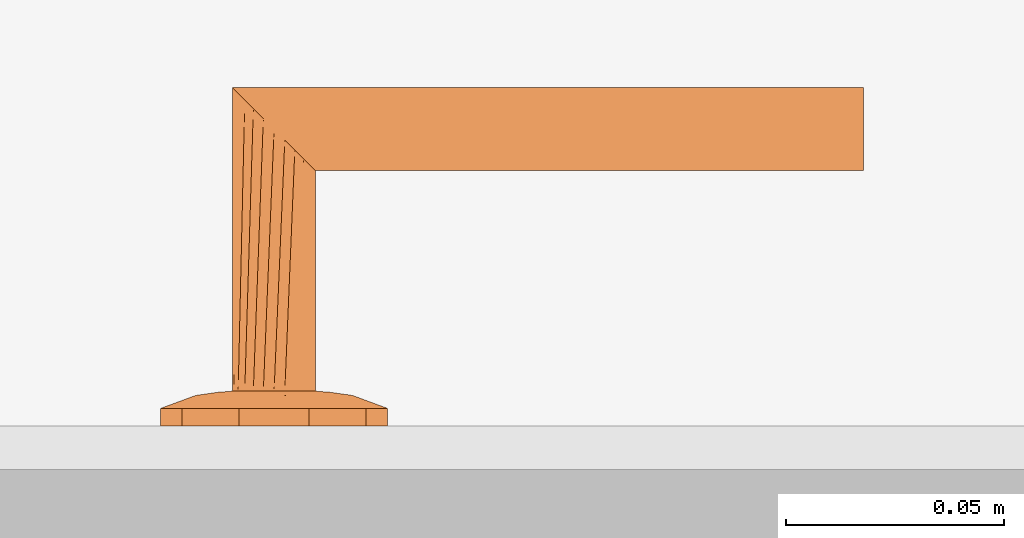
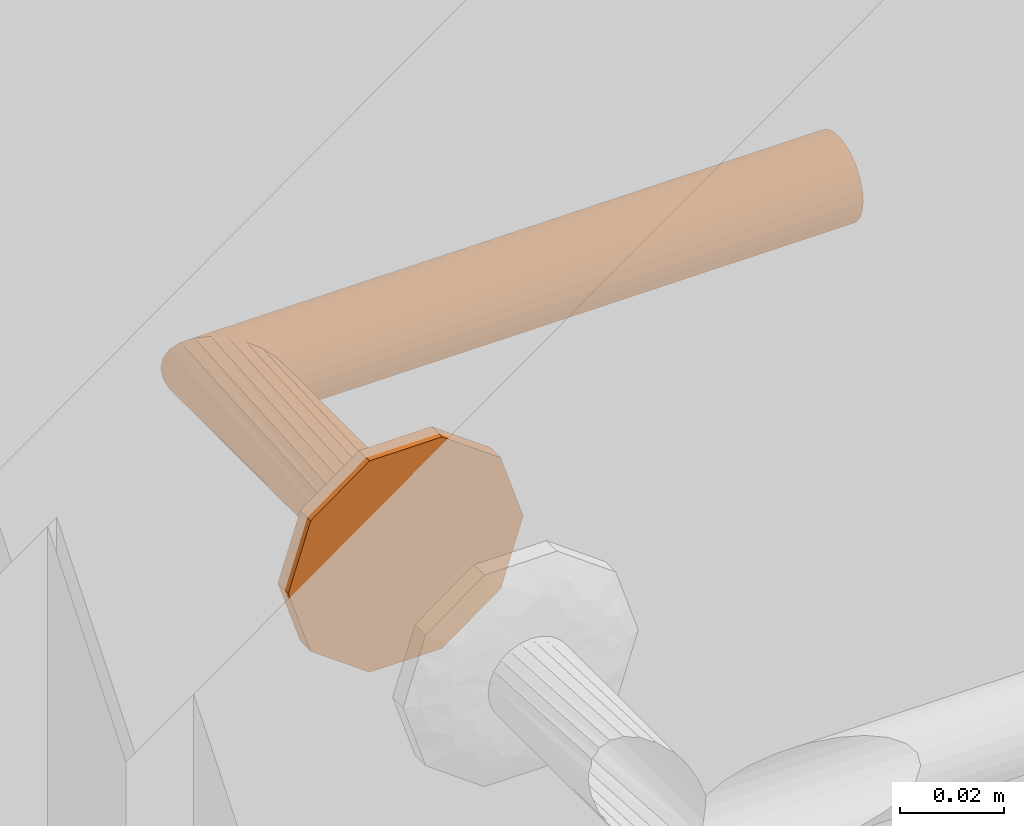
# One storey, part 40 of 55: 1 proxy.
"""IFC2X3 building model written with IfcOpenShell, lengths in millimetres."""

import ifcopenshell
import ifcopenshell.guid

model = None  # the IFC model being written
_history = None  # IfcOwnerHistory: only IFC2X3 demands one
_inside = {}  # id of a spatial element -> (the spatial element, [elements in it])
_under = {}  # id of a project, library or spatial element -> (it, [spatial elements below it])
_declared = {}  # id of a project -> (the project, [libraries it declares])
_typed = {}  # id of a type object -> (the type object, [elements of that type])
_made_of = {}  # id of a material, layer set ... -> (it, [elements and type objects made of it])


def new_model(schema):
    """Start an empty IFC model of exactly this schema.

    Asked for "IFC4X3", IfcOpenShell would pick the latest addendum, in which some entities
    have other attributes; the version numbers below select the first issue.
    IFC2X3 requires an IfcOwnerHistory on every rooted entity: one is made here for all.
    """
    global model, _history
    if schema == "IFC4X3":
        model = ifcopenshell.file(schema_version=(4, 3, 0, 0))
    else:
        model = ifcopenshell.file(schema=schema)
    _inside.clear()
    _under.clear()
    _declared.clear()
    _typed.clear()
    _made_of.clear()
    _history = None
    if model.schema == "IFC2X3":
        org = make("IfcOrganization", Name="unknown")
        user = make(
            "IfcPersonAndOrganization",
            ThePerson=make("IfcPerson", FamilyName="unknown"),
            TheOrganization=org,
        )
        app = make(
            "IfcApplication",
            ApplicationDeveloper=org,
            Version="unknown",
            ApplicationFullName="unknown",
            ApplicationIdentifier="unknown",
        )
        _history = make(
            "IfcOwnerHistory",
            OwningUser=user,
            OwningApplication=app,
            ChangeAction="ADDED",
            CreationDate=0,
        )
    return model


def make(cls, **values):
    """One entity of the class cls with the attributes given. An attribute that is None is left unset."""
    return model.create_entity(
        cls, **{name: value for name, value in values.items() if value is not None}
    )


def entity(cls, *values):
    """Any entity or typed value of the class cls, its attributes in the order of the schema. None: left unset."""
    e = model.create_entity(cls)
    for i, value in enumerate(values):
        if value is not None:
            e[i] = value
    return e


def rooted(cls, **values):
    """An entity with a GlobalId (a new one), such as an element, a storey or a relation."""
    return make(cls, GlobalId=ifcopenshell.guid.new(), OwnerHistory=_history, **values)


def si_unit(unit_type, name, prefix=None):
    """IfcSIUnit, for example si_unit("LENGTHUNIT", "METRE", prefix="MILLI")."""
    return make("IfcSIUnit", UnitType=unit_type, Prefix=prefix, Name=name)


def converted_unit(unit_type, name, factor, base, dimensions=None, offset=None):
    """IfcConversionBasedUnit, such as the inch: factor (a typed value) times the base unit."""
    return make(
        "IfcConversionBasedUnit"
        if offset is None
        else "IfcConversionBasedUnitWithOffset",
        ConversionOffset=offset,
        Dimensions=None
        if dimensions is None
        else entity("IfcDimensionalExponents", *dimensions),
        UnitType=unit_type,
        Name=name,
        ConversionFactor=make(
            "IfcMeasureWithUnit", ValueComponent=factor, UnitComponent=base
        ),
    )


def assignment(units):
    """IfcUnitAssignment: the units of a project."""
    return None if units is None else make("IfcUnitAssignment", Units=units)


def point(xyz):
    """IfcCartesianPoint."""
    return None if xyz is None else make("IfcCartesianPoint", Coordinates=xyz)


def direction(xyz):
    """IfcDirection."""
    return None if xyz is None else make("IfcDirection", DirectionRatios=xyz)


def frame(location, z_axis=None, x_axis=None):
    """IfcAxis2Placement3D, a coordinate frame: its origin and axes. An axis left out is left unset."""
    return make(
        "IfcAxis2Placement3D",
        Location=point(location),
        Axis=direction(z_axis),
        RefDirection=direction(x_axis),
    )


def origin():
    """The frame at (0, 0, 0) with its axes left unset."""
    return frame((0.0, 0.0, 0.0))


def place(relative_to, where):
    """IfcLocalPlacement: puts the frame where relative to a parent placement (None: the world)."""
    return make(
        "IfcLocalPlacement", PlacementRelTo=relative_to, RelativePlacement=where
    )


def context(
    kind, dimensions, precision=None, world=None, true_north=None, identifier=None
):
    """IfcGeometricRepresentationContext, for example the 3D "Model" context."""
    return make(
        "IfcGeometricRepresentationContext",
        ContextIdentifier=identifier,
        ContextType=kind,
        CoordinateSpaceDimension=dimensions,
        Precision=precision,
        WorldCoordinateSystem=world,
        TrueNorth=true_north,
    )


def subcontext(parent, identifier, kind, view, scale=None):
    """IfcGeometricRepresentationSubContext, for example "Body" below "Model"."""
    return make(
        "IfcGeometricRepresentationSubContext",
        ContextIdentifier=identifier,
        ContextType=kind,
        ParentContext=parent,
        TargetScale=scale,
        TargetView=view,
    )


def project(units=None, contexts=None):
    """IfcProject with its units and contexts."""
    return rooted(
        "IfcProject",
        Name="project",
        RepresentationContexts=contexts,
        UnitsInContext=assignment(units),
    )


def spatial(cls, under=None, at=None, **own):
    """A site, building, storey or space (cls), placed at a placement, below another one or the project."""
    s = rooted(cls, ObjectPlacement=at, **own)
    if under is not None:
        _under.setdefault(under.id(), (under, []))[1].append(s)
    return s


def faces_of(points, faces, orient=None, outer=None):
    """IfcFace entities. A face is a list of loops; a loop is a list of indices into points, from 0.

    orient and outer hold one flag for each loop. By default every Orientation is true, the
    first loop of a face is its IfcFaceOuterBound and the others are IfcFaceBound.
    """
    made = []
    for i, loops in enumerate(faces):
        bounds = []
        for j, loop in enumerate(loops):
            is_outer = j == 0 if outer is None else outer[i][j]
            bounds.append(
                make(
                    "IfcFaceOuterBound" if is_outer else "IfcFaceBound",
                    Bound=make("IfcPolyLoop", Polygon=[points[k] for k in loop]),
                    Orientation=True if orient is None else orient[i][j],
                )
            )
        made.append(make("IfcFace", Bounds=bounds))
    return made


def faceted_brep(points, faces, orient=None, outer=None, voids=None):
    """IfcFacetedBrep: a solid bounded by flat faces; with voids (closed shells), ...WithVoids."""
    shared = [point(p) for p in points]
    hull = make("IfcClosedShell", CfsFaces=faces_of(shared, faces, orient, outer))
    if voids is None:
        return make("IfcFacetedBrep", Outer=hull)
    return make(
        "IfcFacetedBrepWithVoids",
        Outer=hull,
        Voids=[
            make(cls, CfsFaces=faces_of(shared, fs, o, b)) for cls, fs, o, b in voids
        ],
    )


def shape(context_of_items, identifier, shape_type, items):
    """IfcShapeRepresentation: the items that make up one representation, for example the "Body"."""
    return make(
        "IfcShapeRepresentation",
        ContextOfItems=context_of_items,
        RepresentationIdentifier=identifier,
        RepresentationType=shape_type,
        Items=items,
    )


def source(mapping_origin, context_of_items, identifier, shape_type, items):
    """IfcRepresentationMap: a shape defined once, which mapped items show again and again."""
    return make(
        "IfcRepresentationMap",
        MappingOrigin=mapping_origin,
        MappedRepresentation=shape(context_of_items, identifier, shape_type, items),
    )


def transform(
    local_origin,
    x_axis=None,
    y_axis=None,
    z_axis=None,
    scale=None,
    scale2=None,
    scale3=None,
    uniform=True,
):
    """IfcCartesianTransformationOperator3D, or its non-uniform kind. x_axis, y_axis, z_axis: its Axis1, 2, 3."""
    if uniform:
        return make(
            "IfcCartesianTransformationOperator3D",
            Axis1=direction(x_axis),
            Axis2=direction(y_axis),
            LocalOrigin=point(local_origin),
            Scale=scale,
            Axis3=direction(z_axis),
        )
    return make(
        "IfcCartesianTransformationOperator3DnonUniform",
        Axis1=direction(x_axis),
        Axis2=direction(y_axis),
        LocalOrigin=point(local_origin),
        Scale=scale,
        Axis3=direction(z_axis),
        Scale2=scale2,
        Scale3=scale3,
    )


def mapped(mapping_source, mapping_target):
    """IfcMappedItem: shows the shape of a source again, moved by a transform."""
    return make(
        "IfcMappedItem", MappingSource=mapping_source, MappingTarget=mapping_target
    )


def material(Name=None, Category=None):
    """IfcMaterial."""
    return make("IfcMaterial", Name=Name, Category=Category)


def made_of(thing, what):
    """Note that an element or type object is made of a material, layer set ...; save() writes the relation."""
    if what is not None:
        _made_of.setdefault(what.id(), (what, []))[1].append(thing)
    return thing


def type_object(cls, material=None, **own):
    """A type object (cls), such as IfcWallType, which elements share."""
    return made_of(rooted(cls, **own), material)


def type_shapes(of_type, sources):
    """Give a type object the sources (RepresentationMaps) that its elements show as mapped items."""
    of_type.RepresentationMaps = sources


def element(
    cls,
    number,
    at=None,
    inside=None,
    cuts=None,
    type_object=None,
    material=None,
    context=None,
    identifier="Body",
    shape_type=None,
    held_by="IfcProductDefinitionShape",
    body=None,
    shapes=None,
    **own,
):
    """One element of the class cls, such as IfcWall. Its Tag is "e" and its number.

    at: its placement. inside: the storey or other place that contains it. cuts: it is an
    opening in that element (IfcRelVoidsElement). A single representation is given by context,
    identifier, shape_type and body (its items); several are given by shapes. held_by: the class
    of the entity that holds the representations. save() writes the other relations.
    """
    e = rooted(cls, Tag="e%d" % number, ObjectPlacement=at, **own)
    if body is not None:
        shapes = [shape(context, identifier, shape_type, body)]
    if shapes is not None:
        e.Representation = make(held_by, Representations=shapes)
    if inside is not None:
        _inside.setdefault(inside.id(), (inside, []))[1].append(e)
    if cuts is not None:
        rooted(
            "IfcRelVoidsElement", RelatingBuildingElement=cuts, RelatedOpeningElement=e
        )
    if type_object is not None:
        _typed.setdefault(type_object.id(), (type_object, []))[1].append(e)
    return made_of(e, material)


def aggregate(whole, parts):
    """IfcRelAggregates: a whole, such as a stair, and the parts it consists of."""
    return rooted("IfcRelAggregates", RelatingObject=whole, RelatedObjects=parts)


def save(model, path):
    """Write the relations noted so far, then the file.

    IfcRelAggregates (storeys below a building ...), IfcRelContainedInSpatialStructure (elements
    in a storey), IfcRelDefinesByType, IfcRelAssociatesMaterial and IfcRelDeclares: one each for
    every whole, place, type object, material and project.
    """
    for whole, parts in _under.values():
        aggregate(whole, parts)
    for where, things in _inside.values():
        rooted(
            "IfcRelContainedInSpatialStructure",
            RelatedElements=things,
            RelatingStructure=where,
        )
    for kind, things in _typed.values():
        rooted("IfcRelDefinesByType", RelatedObjects=things, RelatingType=kind)
    for what, things in _made_of.values():
        rooted("IfcRelAssociatesMaterial", RelatedObjects=things, RelatingMaterial=what)
    for by, libraries in _declared.values():
        rooted("IfcRelDeclares", RelatingContext=by, RelatedDefinitions=libraries)
    model.write(path)


model = new_model("IFC2X3")

# Units and contexts
model_context = context("Model", 3, precision=0.01, world=origin(), true_north=direction((6.123233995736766e-17, 1.0)))
plan_context = context("Plan", 3, precision=0.01, world=origin(), true_north=direction((6.123233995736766e-17, 1.0)))
body_context = subcontext(model_context, "Body", "Model", "MODEL_VIEW")
ifc_project = project(units=[si_unit("LENGTHUNIT", "METRE", prefix="MILLI"), converted_unit("PLANEANGLEUNIT", "DEGREE", entity("IfcPlaneAngleMeasure", 0.017453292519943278), si_unit("PLANEANGLEUNIT", "RADIAN"), dimensions=[0, 0, 0, 0, 0, 0, 0]), si_unit("AREAUNIT", "SQUARE_METRE")], contexts=[model_context, plan_context])

# Site, building, storey, space
site_placement = place(None, origin())
site = spatial("IfcSite", under=ifc_project, at=site_placement, Name="Default", CompositionType="ELEMENT")
building_placement = place(site_placement, origin())
building = spatial("IfcBuilding", under=site, at=building_placement, CompositionType="ELEMENT")
storey_placement = place(building_placement, origin())
storey = spatial("IfcBuildingStorey", under=building, at=storey_placement, Name="1K", CompositionType="ELEMENT", Elevation=0.0)
space_placement = place(storey_placement, origin())
space = spatial("IfcSpace", under=storey, at=space_placement, Name="1-0.5", CompositionType="ELEMENT", InteriorOrExteriorSpace="INTERNAL")

# Proxy
ifc_material = material(Name="<Unnamed>")
building_element_proxy_type = type_object("IfcBuildingElementProxyType", Name="Door-handle_Lever_ABLOY_INOXI_3-19ss-002_RT:Default", PredefinedType="NOTDEFINED", material=ifc_material)
shared_shape = source(origin(), body_context, "Body", "Brep", [
    faceted_brep([(0.0, 0.0, 0.0), (21.034441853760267, -15.282416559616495, 0.0), (14.534441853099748, -20.00494299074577, 0.0), (8.034441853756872, -24.72746942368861, 0.0), (0.0, -24.72746942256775, 0.0), (23.51722092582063, -7.6412082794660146, 0.0), (26.0, 0.0, 0.0), (-8.034441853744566, -24.727469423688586, 0.0), (-14.534441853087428, -20.00494299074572, 0.0), (-21.03444185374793, -15.282416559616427, 0.0), (-23.517220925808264, -7.641208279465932, 0.0), (-26.0, 0.0, 0.0), (-23.517220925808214, 7.641208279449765, 0.0), (23.517220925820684, 7.641208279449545, 0.0), (21.034441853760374, 15.282416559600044, 0.0), (14.53444185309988, 20.00494299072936, 0.0), (8.034441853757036, 24.72746942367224, 0.0), (-21.034441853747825, 15.282416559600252, 0.0), (-14.53444185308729, 20.004942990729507, 0.0), (-8.0344418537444, 24.72746942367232, 0.0), (0.0, 24.72746942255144, 0.0), (0.0, 0.0, 8.0), (4.7500000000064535, -8.227241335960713, 8.0), (5.937500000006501, -6.170431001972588, 8.0), (7.125000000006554, -4.113620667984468, 8.0), (8.312500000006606, -2.0568103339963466, 8.0), (9.500000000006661, 0.0, 8.0), (8.312500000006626, 2.056810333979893, 8.0), (2.3750000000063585, -8.227241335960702, 8.0), (0.0, -8.227241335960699, 8.0), (-2.3749999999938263, -8.227241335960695, 8.0), (-4.749999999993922, -8.227241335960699, 8.0), (-5.937499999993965, -6.170431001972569, 8.0), (-7.124999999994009, -4.113620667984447, 8.0), (-8.312499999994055, -2.056810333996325, 8.0), (-9.499999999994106, 0.0, 8.0), (7.125000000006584, 4.113620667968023, 8.0), (5.937500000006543, 6.170431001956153, 8.0), (4.750000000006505, 8.227241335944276, 8.0), (2.3750000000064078, 8.22724133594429, 8.0), (-8.31249999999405, 2.0568103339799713, 8.0), (-7.12499999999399, 4.113620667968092, 8.0), (-5.9374999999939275, 6.170431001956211, 8.0), (-4.74999999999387, 8.227241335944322, 8.0), (0.0, 8.227241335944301, 8.0), (-2.374999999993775, 8.227241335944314, 8.0), (-22.488765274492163, -10.806469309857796, 4.030771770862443), (-16.663919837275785, -7.932665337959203, 6.877259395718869), (-20.643071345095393, -6.292822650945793, 5.929480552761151), (-12.50457926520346, -5.179566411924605, 7.774932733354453), (-16.764060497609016, -3.820257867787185, 7.1747985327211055), (-9.071726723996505, -10.311606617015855, 7.7520782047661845), (-11.963426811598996, -8.625290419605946, 7.618343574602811), (-11.979136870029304, -13.678312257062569, 6.945778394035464), (5.7585542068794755, -20.96753300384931, 5.871476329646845), (0.0, -24.72746942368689, 4.030771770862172), (8.03444185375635, -24.727469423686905, 4.030771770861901), (16.66391982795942, -7.932665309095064, 6.877259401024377), (22.488765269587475, -10.806469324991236, 4.03077177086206), (20.64307133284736, -6.29282258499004, 5.929480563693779), (14.534441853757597, -20.004942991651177, 4.030771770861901), (9.499431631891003, -18.64368355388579, 6.154325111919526), (-15.783149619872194, -11.991003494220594, 6.50080018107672), (-21.034441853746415, -15.282416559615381, 4.030771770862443), (-14.53444185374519, -20.00494299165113, 4.030771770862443), (-23.012042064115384, 0.0, 5.135401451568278), (-23.943088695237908, -6.330522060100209, 4.030771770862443), (11.96342678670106, -8.62529049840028, 7.618343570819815), (12.504579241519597, -5.179566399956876, 7.774932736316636), (16.764060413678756, -3.8202578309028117, 7.17479855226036), (15.783149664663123, -11.991003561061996, 6.50080015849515), (17.985351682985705, 0.0, 6.993737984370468), (23.012042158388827, 0.0, 5.135401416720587), (8.661516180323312, -10.478936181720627, 7.768126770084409), (-8.03444185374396, -24.727469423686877, 4.030771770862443), (-3.3573143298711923, -21.197247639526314, 5.971427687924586), (-9.941915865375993, -17.061976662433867, 6.522757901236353), (-5.973257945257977, -16.430139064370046, 7.110979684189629), (-7.711266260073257, -12.760344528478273, 7.594456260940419), (11.979136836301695, -13.678312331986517, 6.945778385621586), (7.511307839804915, -13.358932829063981, 7.529187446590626), (5.953298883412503, -16.50608604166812, 7.096344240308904), (-1.5654593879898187, -15.307443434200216, 7.519134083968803), (-7.784980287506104, -20.476295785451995, 5.812837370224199), (2.8135289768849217, -17.76392260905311, 6.993737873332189), (-17.98535168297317, 0.0, 6.993737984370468), (-26.0, 0.0, 4.030771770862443), (-23.51722092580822, -7.641208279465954, 4.030771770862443), (23.943088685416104, -6.33052209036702, 4.030771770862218), (24.308823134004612, -5.204907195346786, 4.030771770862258), (26.0, 0.0, 4.030771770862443), (21.03444185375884, -15.282416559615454, 4.030771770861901), (22.617646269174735, -10.40981439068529, 4.030771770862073), (22.488765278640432, 10.806469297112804, 4.030771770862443), (16.66391984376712, 7.932665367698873, 6.877259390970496), (20.643071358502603, 6.292822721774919, 5.929480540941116), (12.504579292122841, 5.179566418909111, 7.774932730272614), (16.764060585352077, 3.8202579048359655, 7.174798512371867), (9.07172672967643, 10.31160659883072, 7.752078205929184), (11.963426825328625, 8.62529034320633, 7.618343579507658), (11.979136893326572, 13.67831220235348, 6.9457784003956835), (-5.758554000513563, 20.96753314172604, 5.8714763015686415), (0.0, 24.72746942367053, 4.030771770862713), (-8.03444185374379, 24.72746942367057, 4.030771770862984), (-16.663919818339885, 7.932665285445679, 6.877259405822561), (-22.48876526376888, 10.806469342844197, 4.030771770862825), (-20.643071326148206, 6.2928225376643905, 5.929480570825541), (-14.534441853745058, 20.004942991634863, 4.030771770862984), (-9.499431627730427, 18.643683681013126, 6.154325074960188), (15.783149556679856, 11.991003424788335, 6.5008002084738), (21.03444185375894, 15.282416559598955, 4.030771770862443), (14.534441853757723, 20.004942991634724, 4.030771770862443), (23.943088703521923, 6.330522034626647, 4.030771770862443), (-11.96342675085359, 8.625290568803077, 7.618343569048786), (-12.504579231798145, 5.179566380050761, 7.77493273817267), (-16.764060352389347, 3.820257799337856, 7.174798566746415), (-15.78314967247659, 11.991003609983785, 6.500800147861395), (-8.661516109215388, 10.478936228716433, 7.768126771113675), (8.034441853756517, 24.727469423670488, 4.030771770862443), (3.3573144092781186, 21.197247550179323, 5.971427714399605), (9.941915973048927, 17.061976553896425, 6.522757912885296), (5.9732581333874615, 16.430139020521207, 7.110979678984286), (7.711266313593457, 12.760344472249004, 7.5944562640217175), (-11.979136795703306, 13.678312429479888, 6.945778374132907), (-7.511307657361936, 13.358932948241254, 7.5291874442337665), (-5.9532988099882, 16.50608628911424, 7.096344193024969), (1.5654596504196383, 15.3074431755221, 7.519134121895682), (7.784980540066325, 20.476295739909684, 5.812837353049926), (-2.81352881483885, 17.76392263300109, 6.993737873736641), (23.51722092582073, 7.6412082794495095, 4.030771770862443), (-23.94308867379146, 6.330522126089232, 4.030771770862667), (-24.308823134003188, 5.20490719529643, 4.030771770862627), (-21.034441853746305, 15.282416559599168, 4.030771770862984), (-22.617646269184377, 10.409814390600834, 4.0307717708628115)], [[[0, 1, 2]], [[0, 2, 3]], [[0, 3, 4]], [[0, 5, 1]], [[0, 6, 5]], [[0, 4, 7]], [[0, 7, 8]], [[0, 8, 9]], [[0, 9, 10]], [[0, 10, 11]], [[0, 11, 12]], [[0, 13, 6]], [[0, 14, 13]], [[0, 15, 14]], [[0, 16, 15]], [[0, 12, 17]], [[0, 17, 18]], [[0, 18, 19]], [[0, 19, 20]], [[0, 20, 16]], [[21, 22, 23]], [[21, 23, 24]], [[21, 24, 25]], [[21, 25, 26]], [[21, 26, 27]], [[21, 28, 22]], [[21, 29, 28]], [[21, 30, 29]], [[21, 31, 30]], [[21, 32, 31]], [[21, 33, 32]], [[21, 34, 33]], [[21, 35, 34]], [[21, 27, 36]], [[21, 36, 37]], [[21, 37, 38]], [[21, 38, 39]], [[21, 40, 35]], [[21, 41, 40]], [[21, 42, 41]], [[21, 43, 42]], [[21, 39, 44]], [[21, 44, 45]], [[21, 45, 43]], [[46, 47, 48]], [[47, 49, 50]], [[49, 33, 34]], [[51, 52, 53]], [[49, 52, 33]], [[48, 47, 50]], [[54, 55, 56]], [[57, 58, 59]], [[56, 60, 61]], [[62, 63, 64]], [[65, 66, 48]], [[67, 57, 68]], [[68, 69, 25]], [[57, 67, 70]], [[69, 26, 25]], [[62, 53, 52]], [[71, 69, 72]], [[67, 23, 73]], [[74, 55, 75]], [[76, 77, 78]], [[79, 60, 70]], [[69, 59, 72]], [[80, 81, 61]], [[77, 30, 78]], [[82, 30, 77]], [[28, 80, 22]], [[77, 83, 75]], [[75, 82, 77]], [[55, 84, 75]], [[85, 50, 35]], [[24, 68, 25]], [[82, 84, 29]], [[84, 82, 75]], [[31, 78, 30]], [[82, 29, 30]], [[34, 35, 50]], [[52, 49, 47]], [[62, 52, 47]], [[34, 50, 49]], [[53, 78, 51]], [[32, 33, 52]], [[85, 65, 50]], [[66, 65, 86]], [[67, 68, 24]], [[77, 76, 83]], [[65, 48, 50]], [[63, 62, 46]], [[48, 66, 87, 46]], [[62, 47, 46]], [[69, 68, 57]], [[80, 73, 22]], [[70, 67, 79]], [[67, 24, 23]], [[72, 88, 89, 90]], [[69, 71, 26]], [[59, 69, 57]], [[61, 60, 79]], [[62, 64, 53]], [[91, 58, 70]], [[72, 59, 88]], [[57, 70, 58]], [[59, 58, 92]], [[80, 61, 79]], [[91, 70, 60]], [[61, 81, 54]], [[73, 80, 79]], [[28, 84, 81]], [[67, 73, 79]], [[29, 84, 28]], [[22, 73, 23]], [[51, 31, 32]], [[76, 78, 53]], [[53, 64, 76]], [[83, 64, 74]], [[64, 83, 76]], [[75, 83, 74]], [[31, 51, 78]], [[52, 51, 32]], [[28, 81, 80]], [[54, 81, 84]], [[55, 54, 84]], [[61, 54, 56]], [[93, 94, 95]], [[94, 96, 97]], [[96, 36, 27]], [[98, 99, 100]], [[96, 99, 36]], [[95, 94, 97]], [[101, 102, 103]], [[104, 105, 106]], [[103, 107, 108]], [[109, 110, 111]], [[72, 112, 95]], [[113, 104, 114]], [[114, 115, 40]], [[104, 113, 116]], [[115, 35, 40]], [[109, 100, 99]], [[85, 115, 65]], [[113, 42, 117]], [[118, 102, 119]], [[120, 121, 122]], [[123, 107, 116]], [[115, 106, 65]], [[124, 125, 108]], [[121, 39, 122]], [[126, 39, 121]], [[45, 124, 43]], [[121, 127, 119]], [[119, 126, 121]], [[102, 128, 119]], [[71, 97, 26]], [[41, 114, 40]], [[126, 128, 44]], [[128, 126, 119]], [[38, 122, 39]], [[126, 44, 39]], [[27, 26, 97]], [[99, 96, 94]], [[109, 99, 94]], [[27, 97, 96]], [[100, 122, 98]], [[37, 36, 99]], [[71, 72, 97]], [[112, 72, 90]], [[113, 114, 41]], [[121, 120, 127]], [[72, 95, 97]], [[110, 109, 93]], [[95, 112, 129, 93]], [[109, 94, 93]], [[115, 114, 104]], [[124, 117, 43]], [[116, 113, 123]], [[113, 41, 42]], [[65, 130, 131, 86]], [[115, 85, 35]], [[106, 115, 104]], [[108, 107, 123]], [[109, 111, 100]], [[132, 105, 116]], [[65, 106, 130]], [[104, 116, 105]], [[106, 105, 133]], [[124, 108, 123]], [[132, 116, 107]], [[108, 125, 101]], [[117, 124, 123]], [[45, 128, 125]], [[113, 117, 123]], [[44, 128, 45]], [[43, 117, 42]], [[98, 38, 37]], [[120, 122, 100]], [[100, 111, 120]], [[127, 111, 118]], [[111, 127, 120]], [[119, 127, 118]], [[38, 98, 122]], [[99, 98, 37]], [[45, 125, 124]], [[101, 125, 128]], [[102, 101, 128]], [[108, 101, 103]], [[7, 74, 64, 63, 9, 8]], [[10, 9, 63, 46, 87, 66, 86, 11]], [[6, 90, 89, 88, 92, 1, 5]], [[1, 58, 91]], [[74, 7, 4, 3, 56, 55]], [[60, 56, 3, 2, 1, 91]], [[1, 92, 58]], [[14, 110, 93, 129, 112, 90, 6, 13]], [[111, 110, 14, 15, 16, 118]], [[11, 86, 131, 130, 133, 17, 12]], [[17, 105, 132]], [[118, 16, 20, 19, 103, 102]], [[107, 103, 19, 18, 17, 132]], [[17, 133, 105]], [[59, 92, 88]], [[106, 133, 130]]]),
    faceted_brep([(4.7499999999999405, -8.22724133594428, 8.0), (2.4587809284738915, -9.176295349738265, 8.0), (0.0, -9.499999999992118, 8.0), (-2.4587809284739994, -9.176295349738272, 8.0), (-4.7500000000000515, -8.227241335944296, 8.0), (-6.717514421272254, -6.717514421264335, 8.0), (-8.227241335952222, -4.74999999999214, 8.0), (-9.176295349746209, -2.4587809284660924, 8.0), (-9.500000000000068, 0.0, 8.0), (-9.176295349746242, 2.458780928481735, 8.0), (-8.227241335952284, 4.750000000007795, 8.0), (-6.717514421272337, 6.717514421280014, 8.0), (-4.750000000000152, 8.227241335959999, 8.0), (-2.4587809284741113, 9.176295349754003, 8.0), (0.0, 9.500000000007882, 8.0), (2.4587809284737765, 9.176295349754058, 8.0), (4.7499999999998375, 8.227241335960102, 8.0), (6.717514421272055, 6.717514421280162, 8.0), (8.22724133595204, 4.75000000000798, 8.0), (9.17629534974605, 2.458780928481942, 8.0), (9.499999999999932, 0.0, 8.0), (9.17629534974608, -2.458780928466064, 8.0), (8.227241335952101, -4.749999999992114, 8.0), (6.717514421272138, -6.7175144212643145, 8.0), (-8.227241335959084, 4.7499999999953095, 59.772758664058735), (-6.717514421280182, 6.7175144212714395, 61.282485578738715), (-9.176295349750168, 2.458780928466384, 58.82370465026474), (-4.750000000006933, 8.227241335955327, 63.25000000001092), (-2.4587809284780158, 9.176295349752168, 65.54121907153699), (-9.500000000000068, 0.0, 58.50000000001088), (0.0, 9.50000000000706, 68.0), (4.750000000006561, 8.227241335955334, 72.75000000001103), (2.4587809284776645, 9.17629534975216, 70.45878092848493), (6.717514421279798, 6.7175144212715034, 74.71751442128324), (8.22724133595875, 4.749999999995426, 76.22724133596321), (9.17629534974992, 2.458780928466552, 77.17629534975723), (9.499999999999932, 0.0, 77.50000000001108), (9.176295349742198, -2.4587809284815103, 77.1762953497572), (8.227241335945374, -4.750000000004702, 76.22724133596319), (6.7175144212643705, -6.717514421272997, 74.7175144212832), (4.749999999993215, -8.227241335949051, 72.75000000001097), (2.4587809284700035, -9.17629534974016, 70.45878092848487), (0.0, -9.49999999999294, 68.0), (-2.4587809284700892, -9.176295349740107, 65.54121907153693), (-4.749999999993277, -8.227241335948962, 63.250000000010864), (-6.717514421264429, -6.717514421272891, 61.282485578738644), (-9.176295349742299, -2.458780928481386, 58.8237046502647), (-8.227241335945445, -4.750000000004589, 59.77275866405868), (-135.0, -9.176295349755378, 70.4587809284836), (-135.0, -8.227241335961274, 72.75000000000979), (-135.0, -6.717514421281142, 74.71751442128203), (-135.0, -4.750000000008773, 76.22724133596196), (-135.0, -2.4587809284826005, 77.17629534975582), (-135.0, 0.0, 77.5000000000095), (-135.0, 2.4587809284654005, 77.17629534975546), (-135.0, 4.749999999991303, 76.22724133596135), (-135.0, 6.717514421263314, 74.71751442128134), (-135.0, 8.227241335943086, 72.75000000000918), (-135.0, 9.17629534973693, 70.45878092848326), (-135.0, 9.499999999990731, 68.0), (-135.0, 9.17629534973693, 65.54121907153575), (-135.0, 8.227241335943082, 63.250000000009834), (-135.0, 6.717514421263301, 61.28248557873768), (-135.0, 4.749999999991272, 59.772758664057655), (-135.0, 2.458780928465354, 58.823704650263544), (-135.0, 0.0, 58.50000000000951), (-135.0, -2.458780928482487, 58.82370465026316), (-135.0, -4.750000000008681, 59.772758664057), (-135.0, -6.7175144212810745, 61.28248557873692), (-135.0, -8.227241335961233, 63.25000000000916), (-135.0, -9.176295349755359, 65.54121907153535), (-135.0, -9.500000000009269, 68.0)], [[[0, 1, 2, 3, 4, 5, 6, 7, 8, 9, 10, 11, 12, 13, 14, 15, 16, 17, 18, 19, 20, 21, 22, 23]], [[24, 25, 11, 10]], [[26, 24, 10, 9]], [[14, 27, 28]], [[13, 27, 14]], [[25, 27, 13]], [[29, 26, 9, 8]], [[12, 11, 25]], [[25, 13, 12]], [[28, 30, 15]], [[31, 17, 32]], [[33, 18, 31]], [[19, 34, 35]], [[33, 34, 19]], [[20, 19, 35, 36]], [[16, 15, 30]], [[14, 28, 15]], [[19, 18, 33]], [[17, 31, 18]], [[17, 16, 32]], [[30, 32, 16]], [[20, 36, 37, 21]], [[38, 21, 37]], [[22, 39, 40]], [[38, 39, 21]], [[23, 40, 41]], [[39, 22, 21]], [[1, 42, 43]], [[42, 1, 0]], [[23, 41, 0]], [[23, 22, 40]], [[41, 42, 0]], [[44, 45, 3]], [[43, 44, 2]], [[46, 29, 8, 7]], [[47, 46, 7, 6]], [[45, 47, 6, 5]], [[45, 4, 3]], [[3, 2, 44]], [[5, 4, 45]], [[43, 2, 1]], [[48, 49, 50, 51, 52, 53, 54, 55, 56, 57, 58, 59, 60, 61, 62, 63, 64, 65, 66, 67, 68, 69, 70, 71]], [[64, 63, 24, 26]], [[65, 64, 26, 29]], [[61, 60, 28, 27]], [[62, 61, 27, 25]], [[63, 62, 25, 24]], [[59, 30, 28, 60]], [[57, 56, 33, 31]], [[58, 57, 31, 32]], [[54, 53, 36, 35]], [[55, 54, 35, 34]], [[56, 55, 34, 33]], [[32, 30, 59, 58]], [[52, 51, 38, 37]], [[53, 52, 37, 36]], [[49, 48, 41, 40]], [[50, 49, 40, 39]], [[51, 50, 39, 38]], [[42, 41, 48, 71]], [[69, 68, 45, 44]], [[70, 69, 44, 43]], [[66, 65, 29, 46]], [[67, 66, 46, 47]], [[68, 67, 47, 45]], [[42, 71, 70, 43]]]),
])
type_shapes(building_element_proxy_type, [shared_shape])
proxy_placement = place(space_placement, frame((12334.9950608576, 3109.999959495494, 1000.0), z_axis=(0.0, 1.0, 0.0), x_axis=(-1.0, 0.0, 0.0)))
element("IfcBuildingElementProxy", 1, at=proxy_placement, inside=space, type_object=building_element_proxy_type, material=ifc_material, Name="Door-handle_Lever_ABLOY_INOXI_3-19ss-002_RT:Default", ObjectType="Door-handle_Lever_ABLOY_INOXI_3-19ss-002_RT:Default", context=body_context, shape_type="MappedRepresentation", body=[
    mapped(shared_shape, transform((0.0, 0.0, 0.0), scale=1.0)),
])

save(model, "model.ifc")
